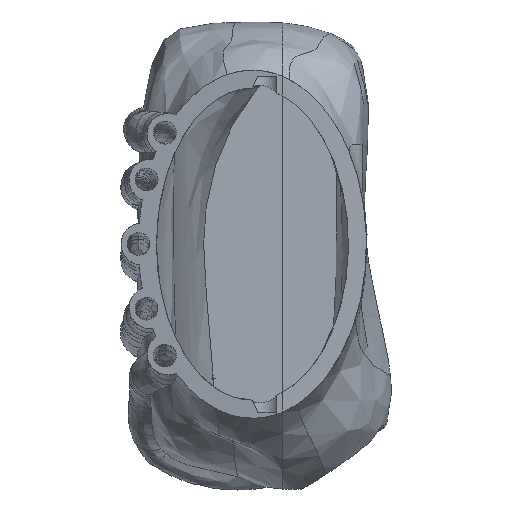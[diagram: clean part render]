
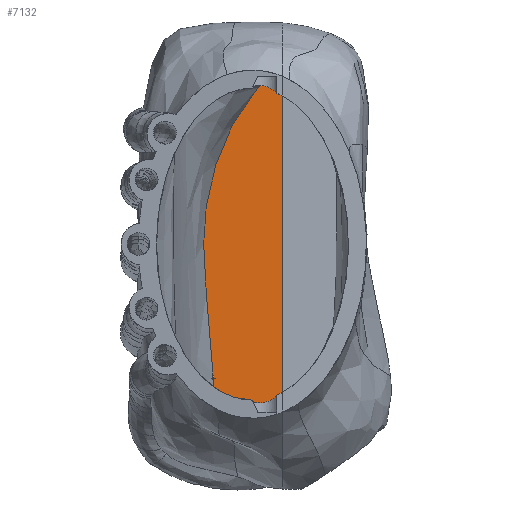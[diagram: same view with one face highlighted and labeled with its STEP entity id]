
A CAD part, left-side view. The second image highlights one B-rep face of the part: STEP entity #7132.
In plain terms, the highlighted planar face has unit normal (-1, 0, 0).
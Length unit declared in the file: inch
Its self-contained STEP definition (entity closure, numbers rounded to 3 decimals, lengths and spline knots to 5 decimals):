
#252=LINE('',#16236,#441);
#441=VECTOR('',#8582,0.3937);
#531=PLANE('',#7629);
#678=ELLIPSE('',#7630,0.1574,0.1001);
#679=ELLIPSE('',#7631,0.16291,0.10037);
#879=FACE_OUTER_BOUND('',#1315,.T.);
#1315=EDGE_LOOP('',(#5118,#5119,#5120,#5121,#5122,#5123));
#1922=(
BOUNDED_CURVE()
B_SPLINE_CURVE(5,(#16238,#16239,#16240,#16241,#16242,#16243,#16244,#16245,
#16246,#16247,#16248,#16249,#16250,#16251,#16252,#16253,#16254,#16255,#16256,
#16257,#16258,#16259,#16260),.UNSPECIFIED.,.F.,.F.)
B_SPLINE_CURVE_WITH_KNOTS((6,1,1,1,1,1,1,1,1,1,1,1,1,1,1,1,1,1,6),(0.61115,
0.62,0.64,0.66,0.68,0.7,0.72,0.74,0.76,0.78,0.8,0.82,0.84,0.86,0.88,0.9,
0.92,0.94,0.94119),.UNSPECIFIED.)
CURVE()
GEOMETRIC_REPRESENTATION_ITEM()
RATIONAL_B_SPLINE_CURVE((1.,1.,1.,1.,1.,1.,1.,1.,1.,1.,1.,1.,1.,1.,1.,1.,
1.,1.,1.,1.,1.,1.,1.))
REPRESENTATION_ITEM('')
);
#1923=(
BOUNDED_CURVE()
B_SPLINE_CURVE(5,(#16266,#16267,#16268,#16269,#16270,#16271,#16272,#16273),
 .UNSPECIFIED.,.F.,.F.)
B_SPLINE_CURVE_WITH_KNOTS((6,1,1,6),(0.94724,0.96,
0.98,1.),.UNSPECIFIED.)
CURVE()
GEOMETRIC_REPRESENTATION_ITEM()
RATIONAL_B_SPLINE_CURVE((1.,1.,1.,1.,1.,1.,1.,1.))
REPRESENTATION_ITEM('')
);
#1924=(
BOUNDED_CURVE()
B_SPLINE_CURVE(5,(#16274,#16275,#16276,#16277,#16278,#16279,#16280,#16281,
#16282,#16283,#16284),.UNSPECIFIED.,.F.,.F.)
B_SPLINE_CURVE_WITH_KNOTS((6,1,1,1,1,1,6),(0.,0.02,0.04,0.06,0.08,0.1,0.10737),
 .UNSPECIFIED.)
CURVE()
GEOMETRIC_REPRESENTATION_ITEM()
RATIONAL_B_SPLINE_CURVE((1.,1.,1.,1.,1.,1.,1.,1.,1.,1.,1.))
REPRESENTATION_ITEM('')
);
#2714=VERTEX_POINT('',#16234);
#2715=VERTEX_POINT('',#16235);
#2716=VERTEX_POINT('',#16237);
#2717=VERTEX_POINT('',#16261);
#2718=VERTEX_POINT('',#16263);
#2719=VERTEX_POINT('',#16265);
#3616=EDGE_CURVE('',#2714,#2715,#252,.T.);
#3617=EDGE_CURVE('',#2714,#2716,#1922,.T.);
#3618=EDGE_CURVE('',#2716,#2717,#678,.T.);
#3619=EDGE_CURVE('',#2717,#2718,#679,.T.);
#3620=EDGE_CURVE('',#2718,#2719,#1923,.T.);
#3621=EDGE_CURVE('',#2719,#2715,#1924,.T.);
#5118=ORIENTED_EDGE('',*,*,#3616,.F.);
#5119=ORIENTED_EDGE('',*,*,#3617,.T.);
#5120=ORIENTED_EDGE('',*,*,#3618,.T.);
#5121=ORIENTED_EDGE('',*,*,#3619,.T.);
#5122=ORIENTED_EDGE('',*,*,#3620,.T.);
#5123=ORIENTED_EDGE('',*,*,#3621,.T.);
#7132=ADVANCED_FACE('',(#879),#531,.T.);
#7629=AXIS2_PLACEMENT_3D('',#16233,#8580,#8581);
#7630=AXIS2_PLACEMENT_3D('',#16262,#8583,#8584);
#7631=AXIS2_PLACEMENT_3D('',#16264,#8585,#8586);
#8580=DIRECTION('center_axis',(-1.,0.,0.));
#8581=DIRECTION('ref_axis',(0.,0.,1.));
#8582=DIRECTION('',(0.,0.,-1.));
#8583=DIRECTION('center_axis',(1.,0.,0.));
#8584=DIRECTION('ref_axis',(0.,0.986,0.167));
#8585=DIRECTION('center_axis',(1.,0.,0.));
#8586=DIRECTION('ref_axis',(0.,0.993,0.118));
#16233=CARTESIAN_POINT('Origin',(3.,-0.11125,5.00997));
#16234=CARTESIAN_POINT('',(3.,-0.2,6.61366));
#16235=CARTESIAN_POINT('',(3.,-0.2,3.74233));
#16236=CARTESIAN_POINT('',(3.,-0.2,2.57209));
#16237=CARTESIAN_POINT('',(3.,0.37946,4.11694));
#16238=CARTESIAN_POINT('Ctrl Pts',(3.,-0.2,6.61366));
#16239=CARTESIAN_POINT('Ctrl Pts',(3.,-0.19011,6.61115));
#16240=CARTESIAN_POINT('Ctrl Pts',(3.,-0.1587,6.60256));
#16241=CARTESIAN_POINT('Ctrl Pts',(3.,-0.11087,6.58647));
#16242=CARTESIAN_POINT('Ctrl Pts',(3.,-0.06046,6.56481));
#16243=CARTESIAN_POINT('Ctrl Pts',(3.,-0.02265,6.53869));
#16244=CARTESIAN_POINT('Ctrl Pts',(3.,0.04028,6.45638));
#16245=CARTESIAN_POINT('Ctrl Pts',(3.,0.10775,6.35983));
#16246=CARTESIAN_POINT('Ctrl Pts',(3.,0.15466,6.29433));
#16247=CARTESIAN_POINT('Ctrl Pts',(3.,0.19139,6.23946));
#16248=CARTESIAN_POINT('Ctrl Pts',(3.,0.24355,6.14504));
#16249=CARTESIAN_POINT('Ctrl Pts',(3.,0.30734,6.00407));
#16250=CARTESIAN_POINT('Ctrl Pts',(3.,0.37433,5.81649));
#16251=CARTESIAN_POINT('Ctrl Pts',(3.,0.42925,5.59547));
#16252=CARTESIAN_POINT('Ctrl Pts',(3.,0.46002,5.35445));
#16253=CARTESIAN_POINT('Ctrl Pts',(3.,0.46054,5.1053));
#16254=CARTESIAN_POINT('Ctrl Pts',(3.,0.44164,4.8443));
#16255=CARTESIAN_POINT('Ctrl Pts',(3.,0.41528,4.58052));
#16256=CARTESIAN_POINT('Ctrl Pts',(3.,0.39617,4.37808));
#16257=CARTESIAN_POINT('Ctrl Pts',(3.,0.38603,4.24126));
#16258=CARTESIAN_POINT('Ctrl Pts',(3.,0.38142,4.15879));
#16259=CARTESIAN_POINT('Ctrl Pts',(3.,0.37957,4.11916));
#16260=CARTESIAN_POINT('Ctrl Pts',(3.,0.37946,4.11694));
#16261=CARTESIAN_POINT('',(3.,0.37274,4.07784));
#16262=CARTESIAN_POINT('Origin',(3.,0.52833,4.10145));
#16263=CARTESIAN_POINT('',(3.,0.37724,4.06287));
#16264=CARTESIAN_POINT('Origin',(3.,0.53408,4.1001));
#16265=CARTESIAN_POINT('',(3.,0.35,3.8));
#16266=CARTESIAN_POINT('Ctrl Pts',(3.,0.37724,4.06287));
#16267=CARTESIAN_POINT('Ctrl Pts',(3.,0.37645,4.0411));
#16268=CARTESIAN_POINT('Ctrl Pts',(3.,0.37482,3.98795));
#16269=CARTESIAN_POINT('Ctrl Pts',(3.,0.37346,3.91419));
#16270=CARTESIAN_POINT('Ctrl Pts',(3.,0.37234,3.8606));
#16271=CARTESIAN_POINT('Ctrl Pts',(3.,0.36807,3.82656));
#16272=CARTESIAN_POINT('Ctrl Pts',(3.,0.35748,3.80796));
#16273=CARTESIAN_POINT('Ctrl Pts',(3.,0.35,3.8));
#16274=CARTESIAN_POINT('Ctrl Pts',(3.,0.35,3.8));
#16275=CARTESIAN_POINT('Ctrl Pts',(3.,0.34252,3.79204));
#16276=CARTESIAN_POINT('Ctrl Pts',(3.,0.32317,3.77879));
#16277=CARTESIAN_POINT('Ctrl Pts',(3.,0.2789,3.76416));
#16278=CARTESIAN_POINT('Ctrl Pts',(3.,0.18906,3.74499));
#16279=CARTESIAN_POINT('Ctrl Pts',(3.,0.06975,3.72625));
#16280=CARTESIAN_POINT('Ctrl Pts',(3.,-0.00517,3.72196));
#16281=CARTESIAN_POINT('Ctrl Pts',(3.,-0.08488,3.72876));
#16282=CARTESIAN_POINT('Ctrl Pts',(3.,-0.15039,3.73617));
#16283=CARTESIAN_POINT('Ctrl Pts',(3.,-0.18944,3.74099));
#16284=CARTESIAN_POINT('Ctrl Pts',(3.,-0.2,3.74233));
